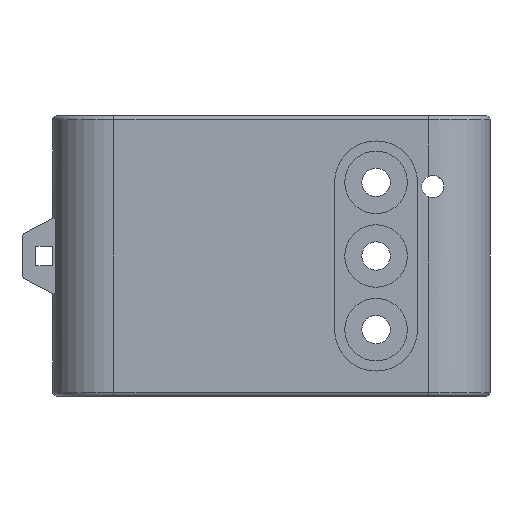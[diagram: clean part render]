
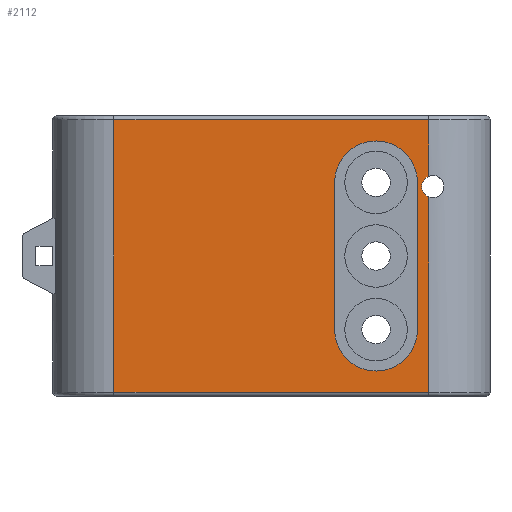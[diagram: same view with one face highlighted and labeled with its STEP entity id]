
A CAD part, front view. The second image highlights one B-rep face of the part: STEP entity #2112.
In plain terms, the highlighted planar face has unit normal (0, -1, 0).
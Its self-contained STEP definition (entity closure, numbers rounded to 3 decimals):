
#40 = DIRECTION ( 'NONE',  ( 0., 0., -1. ) ) ;
#43 = DIRECTION ( 'NONE',  ( 0., -1., 0. ) ) ;
#57 = CARTESIAN_POINT ( 'NONE',  ( -20.516, -7.5, -18.25 ) ) ;
#80 = PLANE ( 'NONE',  #192 ) ;
#192 = AXIS2_PLACEMENT_3D ( 'NONE', #57, #43, #40 ) ;
#193 = VERTEX_POINT ( 'NONE', #2793 ) ;
#245 = EDGE_CURVE ( 'NONE', #628, #1358, #2225, .T. ) ;
#276 = EDGE_LOOP ( 'NONE', ( #1689, #1690, #1700, #1725, #1729, #1763 ) ) ;
#282 = EDGE_LOOP ( 'NONE', ( #1767, #2032, #1897, #1939, #1816 ) ) ;
#293 = EDGE_CURVE ( 'NONE', #1656, #1208, #2221, .T. ) ;
#367 = VERTEX_POINT ( 'NONE', #2525 ) ;
#550 = CARTESIAN_POINT ( 'NONE',  ( 13.65, -7.5, -15. ) ) ;
#601 = CIRCLE ( 'NONE', #2851, 5.4 ) ;
#606 = CARTESIAN_POINT ( 'NONE',  ( 19.05, -7.5, 9.6 ) ) ;
#616 = VERTEX_POINT ( 'NONE', #2233 ) ;
#623 = DIRECTION ( 'NONE',  ( 0., 0., 1. ) ) ;
#624 = CARTESIAN_POINT ( 'NONE',  ( 19.05, -7.5, 9.6 ) ) ;
#628 = VERTEX_POINT ( 'NONE', #2222 ) ;
#707 = CIRCLE ( 'NONE', #2007, 5.4 ) ;
#850 = FACE_BOUND ( 'NONE', #282, .T. ) ;
#857 = FACE_OUTER_BOUND ( 'NONE', #276, .T. ) ;
#858 = EDGE_CURVE ( 'NONE', #1358, #1489, #2051, .T. ) ;
#1079 = AXIS2_PLACEMENT_3D ( 'NONE', #1475, #1468, #1464 ) ;
#1116 = AXIS2_PLACEMENT_3D ( 'NONE', #1606, #1601, #1598 ) ;
#1140 = EDGE_CURVE ( 'NONE', #1208, #193, #1959, .T. ) ;
#1153 = CARTESIAN_POINT ( 'NONE',  ( 20.516, -7.5, 10.398 ) ) ;
#1193 = DIRECTION ( 'NONE',  ( 0., 0., 1. ) ) ;
#1202 = CARTESIAN_POINT ( 'NONE',  ( -20.516, -7.5, -18.25 ) ) ;
#1208 = VERTEX_POINT ( 'NONE', #1794 ) ;
#1215 = LINE ( 'NONE', #624, #1270 ) ;
#1257 = VERTEX_POINT ( 'NONE', #1774 ) ;
#1270 = VECTOR ( 'NONE', #623, 1000. ) ;
#1352 = EDGE_CURVE ( 'NONE', #1489, #1656, #1871, .T. ) ;
#1353 = CARTESIAN_POINT ( 'NONE',  ( 8.25, -7.5, 9.6 ) ) ;
#1358 = VERTEX_POINT ( 'NONE', #1595 ) ;
#1359 = CARTESIAN_POINT ( 'NONE',  ( 20.516, -7.5, 7.702 ) ) ;
#1397 = DIRECTION ( 'NONE',  ( 0., 0., -1. ) ) ;
#1418 = EDGE_CURVE ( 'NONE', #1905, #367, #1782, .T. ) ;
#1464 = DIRECTION ( 'NONE',  ( 0., 0., -1. ) ) ;
#1468 = DIRECTION ( 'NONE',  ( 0., -1., 0. ) ) ;
#1475 = CARTESIAN_POINT ( 'NONE',  ( 13.65, -7.5, 9.6 ) ) ;
#1489 = VERTEX_POINT ( 'NONE', #1359 ) ;
#1508 = EDGE_CURVE ( 'NONE', #367, #1257, #1705, .T. ) ;
#1572 = VECTOR ( 'NONE', #1193, 1000. ) ;
#1591 = LINE ( 'NONE', #1202, #1572 ) ;
#1595 = CARTESIAN_POINT ( 'NONE',  ( 20.516, -7.5, -17.75 ) ) ;
#1598 = DIRECTION ( 'NONE',  ( 0., 0., 1. ) ) ;
#1601 = DIRECTION ( 'NONE',  ( 0., 1., 0. ) ) ;
#1604 = EDGE_CURVE ( 'NONE', #628, #193, #1591, .T. ) ;
#1606 = CARTESIAN_POINT ( 'NONE',  ( 21.05, -7.5, 9.05 ) ) ;
#1656 = VERTEX_POINT ( 'NONE', #1153 ) ;
#1675 = VECTOR ( 'NONE', #1397, 1000. ) ;
#1689 = ORIENTED_EDGE ( 'NONE', *, *, #293, .T. ) ;
#1690 = ORIENTED_EDGE ( 'NONE', *, *, #1140, .T. ) ;
#1700 = ORIENTED_EDGE ( 'NONE', *, *, #1604, .F. ) ;
#1705 = LINE ( 'NONE', #1353, #1675 ) ;
#1725 = ORIENTED_EDGE ( 'NONE', *, *, #245, .T. ) ;
#1729 = ORIENTED_EDGE ( 'NONE', *, *, #858, .T. ) ;
#1763 = ORIENTED_EDGE ( 'NONE', *, *, #1352, .T. ) ;
#1767 = ORIENTED_EDGE ( 'NONE', *, *, #1418, .F. ) ;
#1774 = CARTESIAN_POINT ( 'NONE',  ( 8.25, -7.5, -9.6 ) ) ;
#1782 = CIRCLE ( 'NONE', #1079, 5.4 ) ;
#1790 = DIRECTION ( 'NONE',  ( 0., -1., 0. ) ) ;
#1793 = DIRECTION ( 'NONE',  ( 0., 0., -1. ) ) ;
#1794 = CARTESIAN_POINT ( 'NONE',  ( 20.516, -7.5, 17.75 ) ) ;
#1816 = ORIENTED_EDGE ( 'NONE', *, *, #1508, .F. ) ;
#1847 = CARTESIAN_POINT ( 'NONE',  ( 13.65, -7.5, -9.6 ) ) ;
#1866 = DIRECTION ( 'NONE',  ( -1., 0., 0. ) ) ;
#1871 = CIRCLE ( 'NONE', #1116, 1.45 ) ;
#1887 = EDGE_CURVE ( 'NONE', #616, #1905, #1215, .T. ) ;
#1892 = CARTESIAN_POINT ( 'NONE',  ( -20.516, -7.5, 17.75 ) ) ;
#1897 = ORIENTED_EDGE ( 'NONE', *, *, #2600, .F. ) ;
#1905 = VERTEX_POINT ( 'NONE', #606 ) ;
#1939 = ORIENTED_EDGE ( 'NONE', *, *, #2250, .F. ) ;
#1954 = VECTOR ( 'NONE', #1866, 1000. ) ;
#1959 = LINE ( 'NONE', #1892, #1954 ) ;
#2007 = AXIS2_PLACEMENT_3D ( 'NONE', #2634, #2633, #2624 ) ;
#2032 = ORIENTED_EDGE ( 'NONE', *, *, #1887, .F. ) ;
#2047 = VECTOR ( 'NONE', #2068, 1000. ) ;
#2051 = LINE ( 'NONE', #2074, #2047 ) ;
#2068 = DIRECTION ( 'NONE',  ( 0., 0., 1. ) ) ;
#2074 = CARTESIAN_POINT ( 'NONE',  ( 20.516, -7.5, -18.25 ) ) ;
#2112 = ADVANCED_FACE ( 'NONE', ( #857, #850 ), #80, .T. ) ;
#2219 = VECTOR ( 'NONE', #2576, 1000. ) ;
#2221 = LINE ( 'NONE', #2574, #2219 ) ;
#2222 = CARTESIAN_POINT ( 'NONE',  ( -20.516, -7.5, -17.75 ) ) ;
#2225 = LINE ( 'NONE', #2953, #2248 ) ;
#2233 = CARTESIAN_POINT ( 'NONE',  ( 19.05, -7.5, -9.6 ) ) ;
#2248 = VECTOR ( 'NONE', #2571, 1000. ) ;
#2250 = EDGE_CURVE ( 'NONE', #1257, #2462, #601, .T. ) ;
#2462 = VERTEX_POINT ( 'NONE', #550 ) ;
#2525 = CARTESIAN_POINT ( 'NONE',  ( 8.25, -7.5, 9.6 ) ) ;
#2571 = DIRECTION ( 'NONE',  ( 1., 0., 0. ) ) ;
#2574 = CARTESIAN_POINT ( 'NONE',  ( 20.516, -7.5, -18.25 ) ) ;
#2576 = DIRECTION ( 'NONE',  ( 0., 0., 1. ) ) ;
#2600 = EDGE_CURVE ( 'NONE', #2462, #616, #707, .T. ) ;
#2624 = DIRECTION ( 'NONE',  ( 0., 0., -1. ) ) ;
#2633 = DIRECTION ( 'NONE',  ( 0., -1., 0. ) ) ;
#2634 = CARTESIAN_POINT ( 'NONE',  ( 13.65, -7.5, -9.6 ) ) ;
#2793 = CARTESIAN_POINT ( 'NONE',  ( -20.516, -7.5, 17.75 ) ) ;
#2851 = AXIS2_PLACEMENT_3D ( 'NONE', #1847, #1790, #1793 ) ;
#2953 = CARTESIAN_POINT ( 'NONE',  ( -20.516, -7.5, -17.75 ) ) ;
